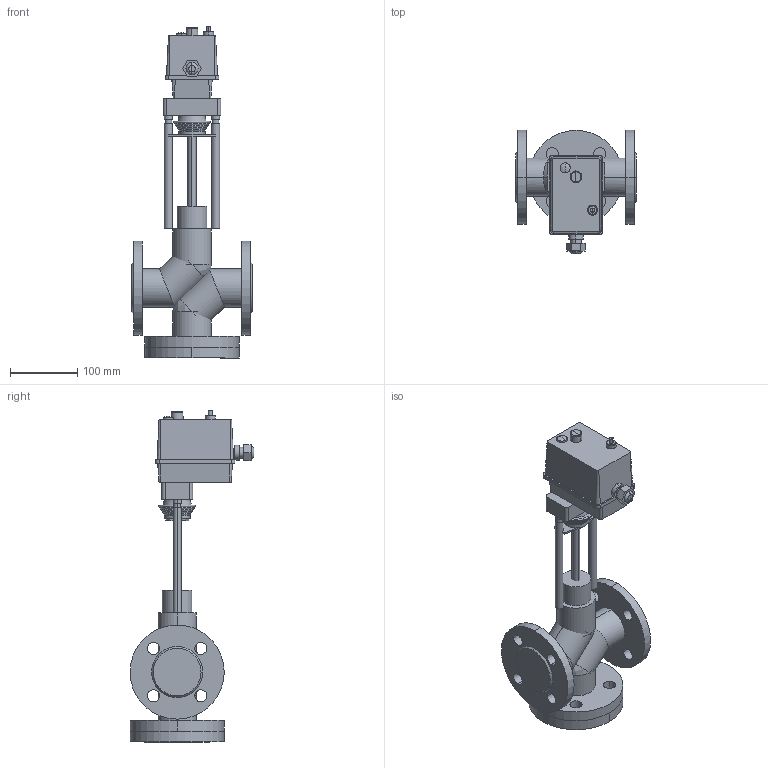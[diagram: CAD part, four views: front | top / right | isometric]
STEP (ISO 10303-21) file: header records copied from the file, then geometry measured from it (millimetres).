
FILE_DESCRIPTION(/* description */ (''),/* implementation_level */ '2;1');
FILE_NAME(/* name */ 'ТРК DN32 PN 1.6 МПа Regada ST MINI',/* time_stamp */ '2026-07-14T23:16:20+03:00',/* author */ (''),/* organization */ (''),/* preprocessor_version */ 'ST-DEVELOPER v20',/* originating_system */ '',/* authorisation */ '');
FILE_SCHEMA (('AP242_MANAGED_MODEL_BASED_3D_ENGINEERING_MIM_LF { 1 0 10303 442 1 1 4 }'));
Length unit declared in the file: millimetre
Products named in the file (14): TopLevelAssembly; Выдавливание; Модификатор; Модификатор_1; Выдавливание_
1; Выдавливание_
2; Вращение; Выдавливание_
3; Выдавливание_
4; Привод_Regada ST Mini; Переход; Объемная геометрия 
присоединена; Полый Выдавливание; Объемная геометрия 
присоединена_1
Assembly tree (13 placements, depth 2):
  TopLevelAssembly
    Выдавливание
    Модификатор
    Модификатор_1
    Выдавливание_
1
    Выдавливание_
2
    Вращение
    Выдавливание_
3
    Выдавливание_
4
    Привод_Regada ST Mini
    Переход
    Объемная геометрия 
присоединена
    Полый Выдавливание
    Объемная геометрия 
присоединена_1
Bounding box: 180 x 184.17 x 494 mm (x, y, z)
Volume: 2708231.2 mm3; surface area: 398451.8 mm2
Topology: 28 solids, 28 shells, 248 faces, 503 edges, 302 vertices
Faces by surface type: plane 122, cylinder 88, bspline 30, cone 8
Entity records: 7453 total; most frequent: CARTESIAN_POINT 1636, DIRECTION 1239, ORIENTED_EDGE 986, AXIS2_PLACEMENT_3D 501, EDGE_CURVE 493, VERTEX_POINT 302, EDGE_LOOP 278, FACE_OUTER_BOUND 248
